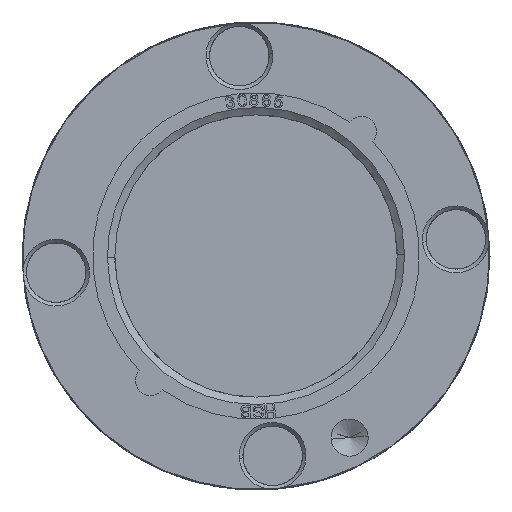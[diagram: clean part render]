
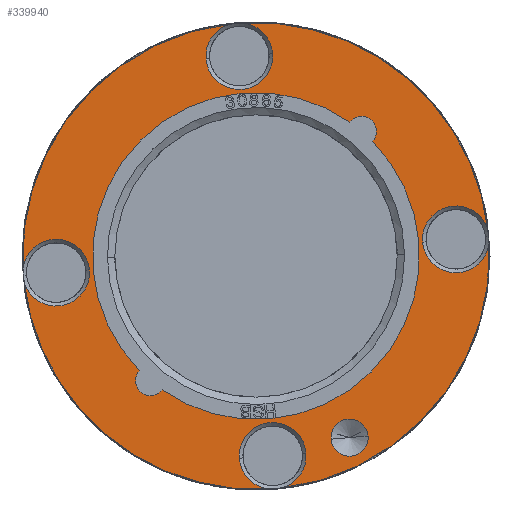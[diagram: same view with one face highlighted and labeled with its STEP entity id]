
A CAD part, left-side view. The second image highlights one B-rep face of the part: STEP entity #339940.
In plain terms, the highlighted planar face has unit normal (-1, 0, 0) as drawn and (1, 0, 0) by its records, which use the part's own axes.
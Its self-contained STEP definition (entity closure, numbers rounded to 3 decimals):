
#337050=CARTESIAN_POINT('',(0.,10.529,
29.582));
#337060=VERTEX_POINT('',#337050);
#337070=CARTESIAN_POINT('',(0.,8.592,
30.202));
#337080=VERTEX_POINT('',#337070);
#337110=CARTESIAN_POINT('',(0.,0.,
0.));
#337120=DIRECTION('',(1.,0.,-0.));
#337130=DIRECTION('',(-0.,-0.889,-0.458));
#337140=AXIS2_PLACEMENT_3D('',#337110,#337120,#337130);
#337150=CIRCLE('',#337140,31.4);
#337160=CARTESIAN_POINT('',(0.,-29.582,
10.529));
#337170=VERTEX_POINT('',#337160);
#337180=EDGE_CURVE('',#337080,#337170,#337150,.T.);
#337590=CARTESIAN_POINT('',(0.,-30.202,
8.592));
#337600=VERTEX_POINT('',#337590);
#337630=CARTESIAN_POINT('',(0.,-27.912,
-14.384));
#337640=VERTEX_POINT('',#337630);
#337650=EDGE_CURVE('',#337600,#337640,#337150,.T.);
#337780=CARTESIAN_POINT('',(0.,27.912,
14.384));
#337790=VERTEX_POINT('',#337780);
#337820=EDGE_CURVE('',#337790,#337060,#337150,.T.);
#338070=CARTESIAN_POINT('',(0.,12.511,
24.346));
#338080=VERTEX_POINT('',#338070);
#338110=CARTESIAN_POINT('',(0.,8.225,
25.717));
#338120=DIRECTION('',(1.,0.,-0.));
#338130=DIRECTION('',(-0.,-0.952,0.305));
#338140=AXIS2_PLACEMENT_3D('',#338110,#338120,#338130);
#338150=CIRCLE('',#338140,4.5);
#338160=CARTESIAN_POINT('',(0.,3.939,
27.088));
#338170=VERTEX_POINT('',#338160);
#338180=EDGE_CURVE('',#338170,#338080,#338150,.T.);
#338800=CARTESIAN_POINT('',(0.,29.035,
-10.095));
#338810=DIRECTION('',(1.,-0.,0.));
#338820=DIRECTION('',(-0.,-0.889,-0.458));
#338830=AXIS2_PLACEMENT_3D('',#338800,#338810,#338820);
#338840=PLANE('',#338830);
#338850=CARTESIAN_POINT('',(0.,2.284,
-27.405));
#338860=DIRECTION('',(1.,0.,-0.));
#338870=DIRECTION('',(-0.,-0.952,0.305));
#338880=AXIS2_PLACEMENT_3D('',#338850,#338860,#338870);
#338890=CIRCLE('',#338880,2.5);
#338900=CARTESIAN_POINT('',(0.,-0.097,
-26.643));
#338910=VERTEX_POINT('',#338900);
#338920=CARTESIAN_POINT('',(0.,4.665,
-28.167));
#338930=VERTEX_POINT('',#338920);
#338940=EDGE_CURVE('',#338910,#338930,#338890,.T.);
#338950=ORIENTED_EDGE('',*,*,#338940,.F.);
#338960=EDGE_CURVE('',#338930,#338910,#338890,.T.);
#338970=ORIENTED_EDGE('',*,*,#338960,.F.);
#338980=EDGE_LOOP('',(#338970,#338950));
#338990=FACE_BOUND('',#338980,.T.);
#339000=CARTESIAN_POINT('',(0.,-19.556,
-10.078));
#339010=DIRECTION('',(1.,0.,-0.));
#339020=DIRECTION('',(0.,0.889,0.458));
#339030=AXIS2_PLACEMENT_3D('',#339000,#339010,#339020);
#339040=CIRCLE('',#339030,2.);
#339050=CARTESIAN_POINT('',(0.,-20.39,
-8.26));
#339060=VERTEX_POINT('',#339050);
#339070=CARTESIAN_POINT('',(0.,-18.56,
-11.812));
#339080=VERTEX_POINT('',#339070);
#339090=EDGE_CURVE('',#339060,#339080,#339040,.T.);
#339100=ORIENTED_EDGE('',*,*,#339090,.F.);
#339110=CARTESIAN_POINT('',(0.,0.,
0.));
#339120=DIRECTION('',(1.,0.,-0.));
#339130=DIRECTION('',(0.,0.305,0.952));
#339140=AXIS2_PLACEMENT_3D('',#339110,#339120,#339130);
#339150=CIRCLE('',#339140,22.);
#339160=CARTESIAN_POINT('',(0.,20.39,
8.26));
#339170=VERTEX_POINT('',#339160);
#339180=EDGE_CURVE('',#339080,#339170,#339150,.T.);
#339190=ORIENTED_EDGE('',*,*,#339180,.F.);
#339200=CARTESIAN_POINT('',(0.,19.556,
10.078));
#339210=DIRECTION('',(1.,0.,-0.));
#339220=DIRECTION('',(0.,0.889,0.458));
#339230=AXIS2_PLACEMENT_3D('',#339200,#339210,#339220);
#339240=CIRCLE('',#339230,2.);
#339250=CARTESIAN_POINT('',(0.,18.56,
11.812));
#339260=VERTEX_POINT('',#339250);
#339270=EDGE_CURVE('',#339170,#339260,#339240,.T.);
#339280=ORIENTED_EDGE('',*,*,#339270,.F.);
#339290=EDGE_CURVE('',#339260,#339060,#339150,.T.);
#339300=ORIENTED_EDGE('',*,*,#339290,.F.);
#339310=EDGE_LOOP('',(#339300,#339280,#339190,#339100));
#339320=FACE_BOUND('',#339310,.T.);
#339330=EDGE_CURVE('',#337080,#338170,#338150,.T.);
#339340=ORIENTED_EDGE('',*,*,#339330,.F.);
#339350=ORIENTED_EDGE('',*,*,#338180,.F.);
#339360=EDGE_CURVE('',#338080,#337060,#338150,.T.);
#339370=ORIENTED_EDGE('',*,*,#339360,.F.);
#339380=ORIENTED_EDGE('',*,*,#337820,.T.);
#339390=CARTESIAN_POINT('',(0.,30.202,
-8.592));
#339400=VERTEX_POINT('',#339390);
#339410=EDGE_CURVE('',#339400,#337790,#337150,.T.);
#339420=ORIENTED_EDGE('',*,*,#339410,.T.);
#339430=CARTESIAN_POINT('',(0.,25.717,
-8.225));
#339440=DIRECTION('',(1.,0.,-0.));
#339450=DIRECTION('',(-0.,-0.952,0.305));
#339460=AXIS2_PLACEMENT_3D('',#339430,#339440,#339450);
#339470=CIRCLE('',#339460,4.5);
#339480=CARTESIAN_POINT('',(0.,21.431,
-6.854));
#339490=VERTEX_POINT('',#339480);
#339500=EDGE_CURVE('',#339400,#339490,#339470,.T.);
#339510=ORIENTED_EDGE('',*,*,#339500,.F.);
#339520=CARTESIAN_POINT('',(0.,29.582,
-10.529));
#339530=VERTEX_POINT('',#339520);
#339540=EDGE_CURVE('',#339490,#339530,#339470,.T.);
#339550=ORIENTED_EDGE('',*,*,#339540,.F.);
#339560=CARTESIAN_POINT('',(0.,-8.592,
-30.202));
#339570=VERTEX_POINT('',#339560);
#339580=EDGE_CURVE('',#339570,#339530,#337150,.T.);
#339590=ORIENTED_EDGE('',*,*,#339580,.T.);
#339600=CARTESIAN_POINT('',(0.,-8.225,
-25.717));
#339610=DIRECTION('',(1.,0.,-0.));
#339620=DIRECTION('',(-0.,-0.952,0.305));
#339630=AXIS2_PLACEMENT_3D('',#339600,#339610,#339620);
#339640=CIRCLE('',#339630,4.5);
#339650=CARTESIAN_POINT('',(0.,-3.939,
-27.088));
#339660=VERTEX_POINT('',#339650);
#339670=EDGE_CURVE('',#339570,#339660,#339640,.T.);
#339680=ORIENTED_EDGE('',*,*,#339670,.F.);
#339690=CARTESIAN_POINT('',(0.,-12.511,
-24.346));
#339700=VERTEX_POINT('',#339690);
#339710=EDGE_CURVE('',#339660,#339700,#339640,.T.);
#339720=ORIENTED_EDGE('',*,*,#339710,.F.);
#339730=CARTESIAN_POINT('',(0.,-10.529,-29.582));
#339740=VERTEX_POINT('',#339730);
#339750=EDGE_CURVE('',#339700,#339740,#339640,.T.);
#339760=ORIENTED_EDGE('',*,*,#339750,.F.);
#339770=EDGE_CURVE('',#337640,#339740,#337150,.T.);
#339780=ORIENTED_EDGE('',*,*,#339770,.T.);
#339790=ORIENTED_EDGE('',*,*,#337650,.T.);
#339800=CARTESIAN_POINT('',(0.,-25.717,
8.225));
#339810=DIRECTION('',(1.,0.,-0.));
#339820=DIRECTION('',(-0.,-0.952,0.305));
#339830=AXIS2_PLACEMENT_3D('',#339800,#339810,#339820);
#339840=CIRCLE('',#339830,4.5);
#339850=CARTESIAN_POINT('',(0.,-21.431,
6.854));
#339860=VERTEX_POINT('',#339850);
#339870=EDGE_CURVE('',#337600,#339860,#339840,.T.);
#339880=ORIENTED_EDGE('',*,*,#339870,.F.);
#339890=EDGE_CURVE('',#339860,#337170,#339840,.T.);
#339900=ORIENTED_EDGE('',*,*,#339890,.F.);
#339910=ORIENTED_EDGE('',*,*,#337180,.T.);
#339920=EDGE_LOOP('',(#339910,#339900,#339880,#339790,#339780,#339760,
#339720,#339680,#339590,#339550,#339510,#339420,#339380,#339370,#339350,
#339340));
#339930=FACE_OUTER_BOUND('',#339920,.T.);
#339940=ADVANCED_FACE('',(#338990,#339320,#339930),#338840,.T.);
